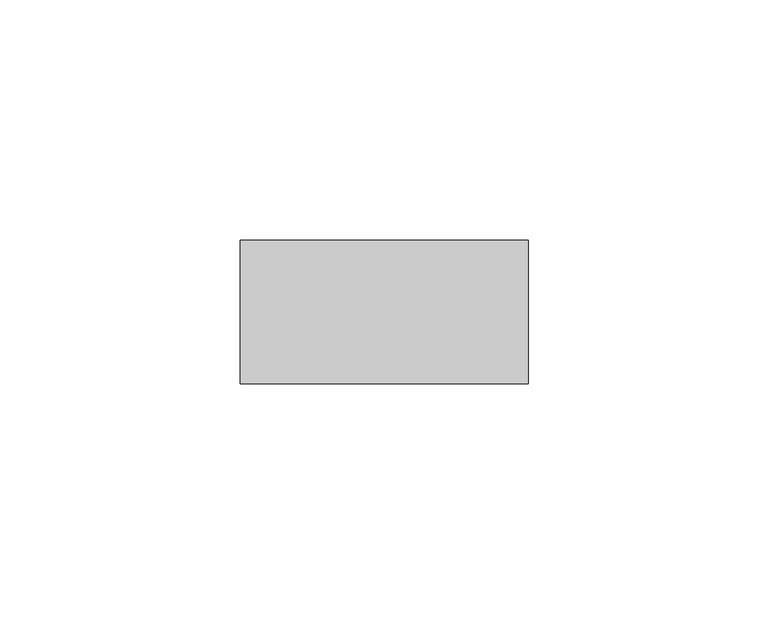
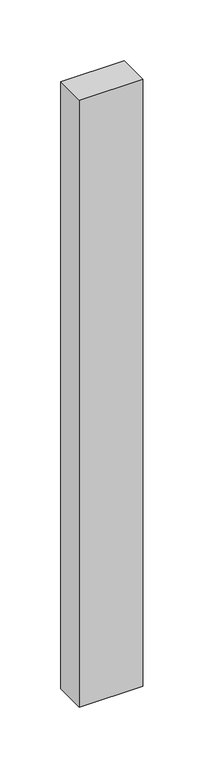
"""IFC4 building model written with IfcOpenShell, lengths in millimetres: member geometry, Прямоугольный импост : Квадрат 30 мм."""

from ifc_helpers import new_model, si_unit, frame, origin, place, context, project, spatial, polyline, outline, extrude, source, transform, mapped, element, save


def member_e5c4b50f(model_context):
    return source(origin(), model_context, "Body", "SweptSolid", [
        extrude(outline(polyline([(30.0, 15.0), (30.0, -15.0), (-30.0, -15.0), (-30.0, 15.0), (30.0, 15.0)])), frame((0.0, 0.0, -607.5), z_axis=(0.0, 0.0, 1.0), x_axis=(1.0, 0.0, 0.0)), (0.0, 0.0, 1.0), 607.5),
    ])


if __name__ == "__main__":
    model = new_model("IFC4")
    model_context = context("Model", 3, world=origin())
    ifc_project = project(units=[si_unit("LENGTHUNIT", "METRE", prefix="MILLI")], contexts=[model_context])
    site = spatial("IfcSite", under=ifc_project)
    building = spatial("IfcBuilding", under=site)
    placement = place(None, origin())
    member_shape = member_e5c4b50f(model_context)
    element("IfcMember", 1, ObjectType="Прямоугольный импост : Квадрат 30 мм", at=placement, inside=building, context=model_context, shape_type="MappedRepresentation", body=[
        mapped(member_shape, transform((0.0, 0.0, 0.0), x_axis=(1.0, 0.0, 0.0), y_axis=(0.0, 1.0, 0.0), z_axis=(0.0, 0.0, 1.0))),
    ])
    save(model, "model.ifc")
